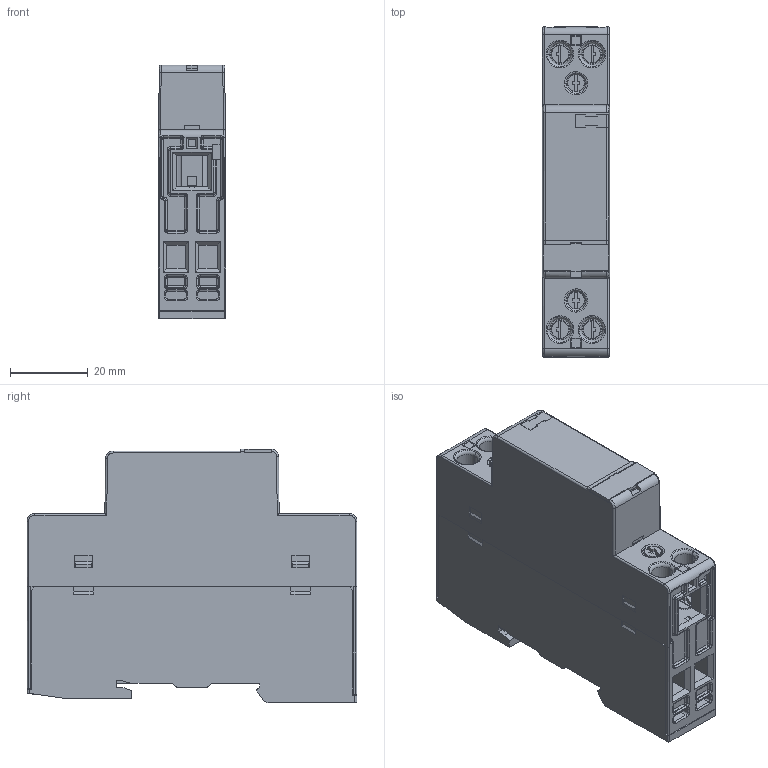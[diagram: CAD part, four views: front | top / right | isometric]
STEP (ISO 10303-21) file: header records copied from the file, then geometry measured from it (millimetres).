
FILE_DESCRIPTION (( 'STEP AP214' ), '1' );
FILE_NAME ('RIC20-xxx-R.STEP', '2024-04-11T06:46:38', ( '' ), ( '' ), 'SwSTEP 2.0', 'SolidWorks 2022', '' );
FILE_SCHEMA (( 'AUTOMOTIVE_DESIGN' ));
Length unit declared in the file: millimetre
Products named in the file (1): RIC20-xxx-R
Bounding box: 17.5 x 85 x 65.4 mm (x, y, z)
Volume: 75486.7 mm3; surface area: 18995.1 mm2
Topology: 1 solids, 1 shells, 1076 faces, 2845 edges, 1766 vertices
Faces by surface type: plane 647, cylinder 253, bspline 120, torus 44, cone 12
Entity records: 36221 total; most frequent: CARTESIAN_POINT 10121, ORIENTED_EDGE 5682, DIRECTION 5063, EDGE_CURVE 2841, LINE 2019, VECTOR 2019, VERTEX_POINT 1766, AXIS2_PLACEMENT_3D 1522
